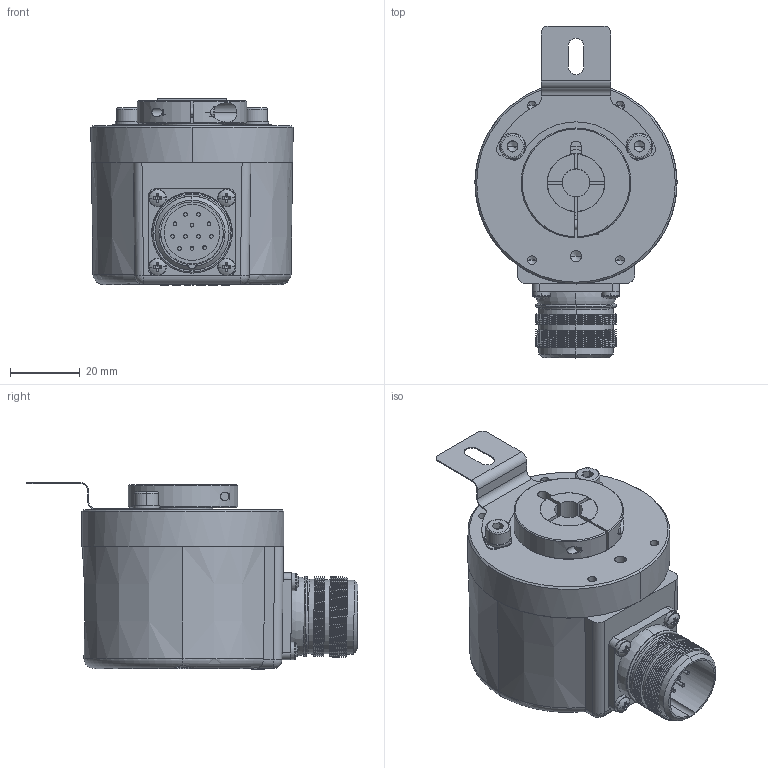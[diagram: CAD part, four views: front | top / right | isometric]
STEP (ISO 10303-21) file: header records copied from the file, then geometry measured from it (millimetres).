
FILE_DESCRIPTION (( 'STEP AP203' ), '1' );
FILE_NAME ('E58HM-SSI-23#3#.STEP', '2023-05-16T14:18:34', ( '' ), ( '' ), 'SwSTEP 2.0', 'SolidWorks 2021', '' );
FILE_SCHEMA (( 'CONFIG_CONTROL_DESIGN' ));
Length unit declared in the file: millimetre
Products named in the file (1): E58HM-SSI-23#3#
Bounding box: 58 x 95.21 x 53.5 mm (x, y, z)
Volume: 127667.9 mm3; surface area: 26163.2 mm2
Topology: 9 solids, 16 shells, 842 faces, 2018 edges, 1226 vertices
Faces by surface type: plane 373, cylinder 240, cone 162, torus 53, sphere 14
Entity records: 24946 total; most frequent: CARTESIAN_POINT 5181, DIRECTION 4337, ORIENTED_EDGE 3972, EDGE_CURVE 1986, AXIS2_PLACEMENT_3D 1694, VERTEX_POINT 1226, LINE 949, VECTOR 949
